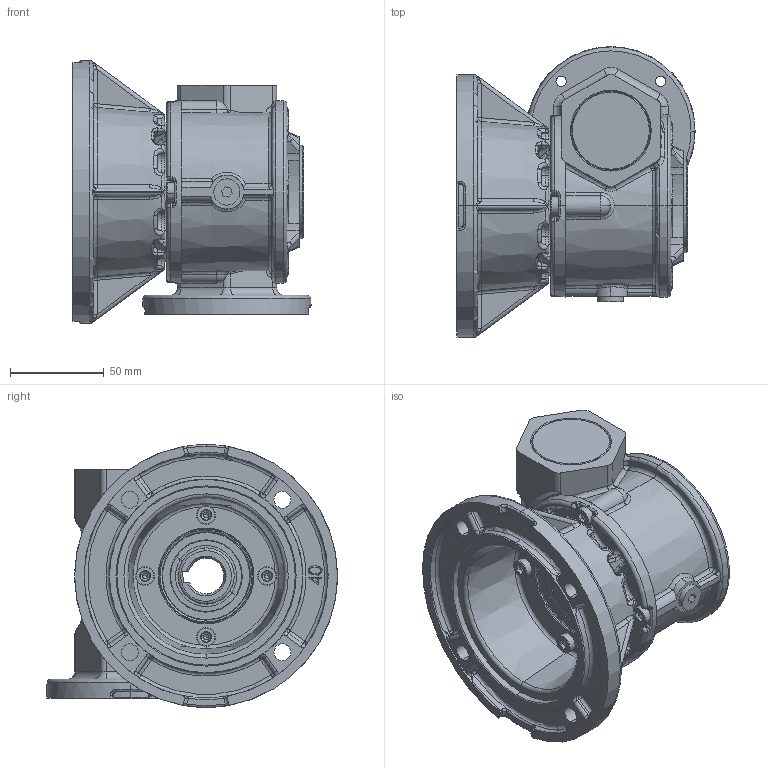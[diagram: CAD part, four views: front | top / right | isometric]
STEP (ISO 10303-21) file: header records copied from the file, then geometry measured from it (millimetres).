
FILE_DESCRIPTION (( 'STEP AP203' ), '1' );
FILE_NAME ('Sestava MRT40A-FF.STEP', '2005-08-15T10:20:30', ( '' ), ( '' ), 'SwSTEP 2.0', 'SolidWorks 2004146', '' );
FILE_SCHEMA (( 'CONFIG_CONTROL_DESIGN' ));
Products named in the file (1): Sestava MRT40A-FF
Bounding box: 126.84 x 155 x 140 mm (x, y, z)
Volume: 591365.7 mm3; surface area: 259618 mm2
Topology: 28 solids, 28 shells, 3044 faces, 7605 edges, 4405 vertices
Faces by surface type: torus 841, cylinder 675, plane 482, cone 472, bspline 409, sphere 165
Entity records: 298042 total; most frequent: CARTESIAN_POINT 229366, DIRECTION 14742, ORIENTED_EDGE 14452, EDGE_CURVE 7226, AXIS2_PLACEMENT_3D 6604, VERTEX_POINT 4265, CIRCLE 3968, EDGE_LOOP 3225
